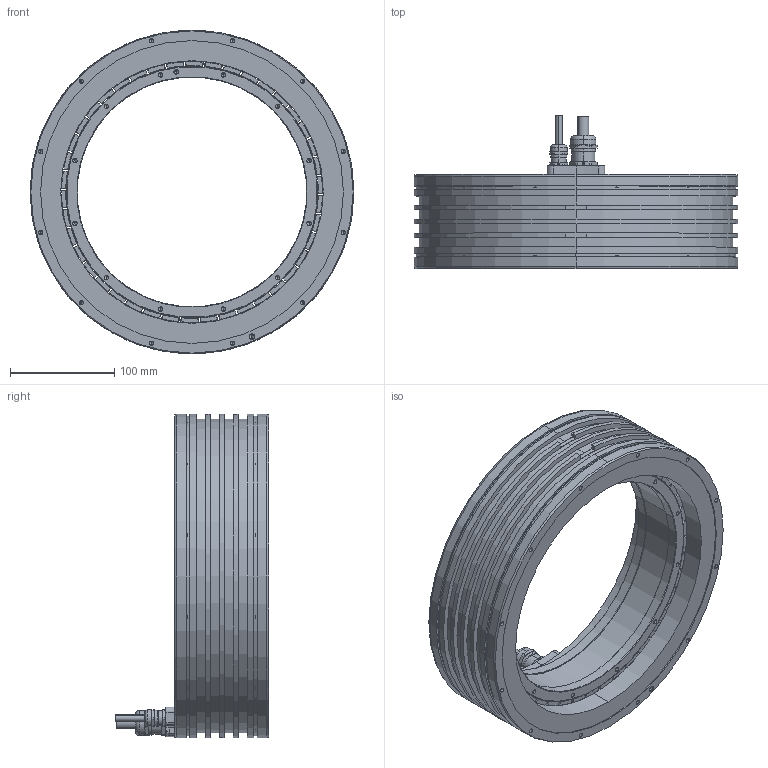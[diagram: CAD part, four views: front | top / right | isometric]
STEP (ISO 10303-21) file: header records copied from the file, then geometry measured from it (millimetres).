
FILE_DESCRIPTION (( 'STEP AP214' ), '1' );
FILE_NAME ('TORQUE KIT QMT LA 310-90-I-AX.STEP', '2025-09-15T11:59:54', ( '' ), ( '' ), 'SwSTEP 2.0', 'SolidWorks 2023', '' );
FILE_SCHEMA (( 'AUTOMOTIVE_DESIGN' ));
Length unit declared in the file: millimetre
Products named in the file (21): Cable Connection; Cooling Ring; Stator; Magnet; Housing; Rotor Glued; Cable; Cable Gland; Rotor; Resin; Housing-BO; Cable Clamp; Rotor Ring; TORQUE KIT QMT LA 310-90-I-AX; Screw
Assembly tree (61 placements, depth 6):
  TORQUE KIT QMT LA 310-90-I-AX
    Stator
      Stator
        Housing
          Housing-BO
            Cooling Ring
        Cable Connection
          Cable Connection
          Cable
          Cable
        Resin
      Cable Clamp
        Cable Clamp
        Cable Gland
        Cable Gland
      Screw  x2
    Rotor
      Rotor Glued
        Rotor Ring
        Magnet  x21
        Magnet  x21
Bounding box: 310 x 147.1 x 310 mm (x, y, z)
Volume: 2643274.5 mm3; surface area: 624147.4 mm2
Topology: 53 solids, 53 shells, 2112 faces, 4878 edges, 2694 vertices
Faces by surface type: cylinder 918, sphere 420, plane 370, cone 212, torus 192
Entity records: 32263 total; most frequent: CARTESIAN_POINT 4660, DIRECTION 4618, ORIENTED_EDGE 3860, EDGE_CURVE 1930, AXIS2_PLACEMENT_3D 1899, VERTEX_POINT 1213, CIRCLE 982, EDGE_LOOP 981
